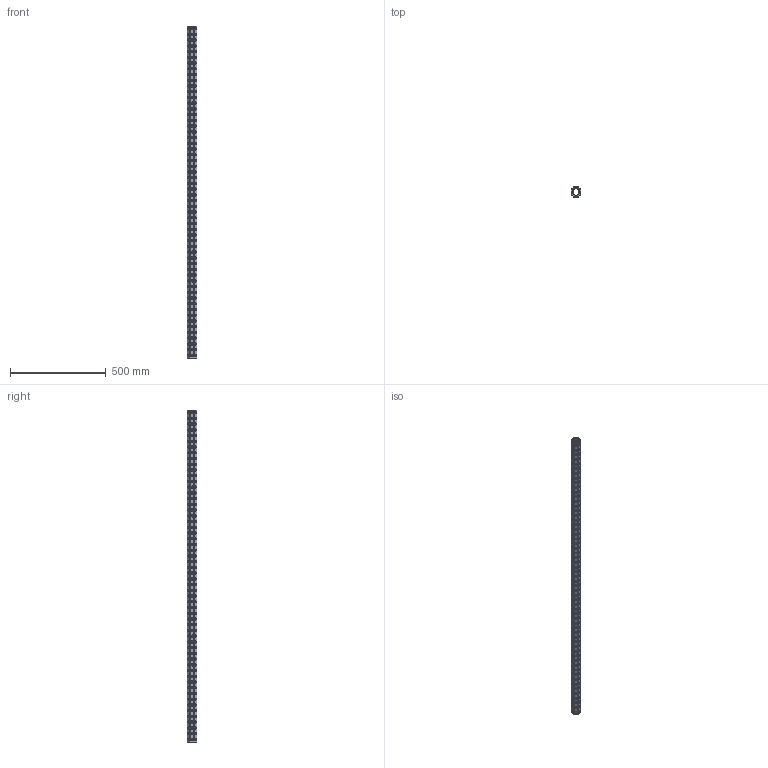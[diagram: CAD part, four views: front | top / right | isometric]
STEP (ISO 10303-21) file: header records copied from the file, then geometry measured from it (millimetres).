
FILE_DESCRIPTION(('CATIA V5 STEP Exchange'),'2;1');
FILE_NAME('U:\Room\唐宝山\EGT002\46-01-010287-01-EGT002-1738.stp','2021-08-24T01:36:34+00:00',('none'),('none'),'CATIA Version 5 Release 21 GA (IN-10)','CATIA V5 STEP AP203','none');
FILE_SCHEMA(('CONFIG_CONTROL_DESIGN'));
Products named in the file (1): 46-01-010287-01-EGT002-1738
Bounding box: 50 x 50 x 1738 mm (x, y, z)
Volume: 1238278.9 mm3; surface area: 597225.9 mm2
Topology: 1 solids, 1 shells, 2404 faces, 6626 edges, 4108 vertices
Faces by surface type: cone 1392, cylinder 986, plane 26
Entity records: 98161 total; most frequent: CARTESIAN_POINT 39920, ORIENTED_EDGE 13252, DIRECTION 9370, EDGE_CURVE 6626, AXIS2_PLACEMENT_3D 4401, VERTEX_POINT 4108, EDGE_LOOP 3218, VECTOR 2566
